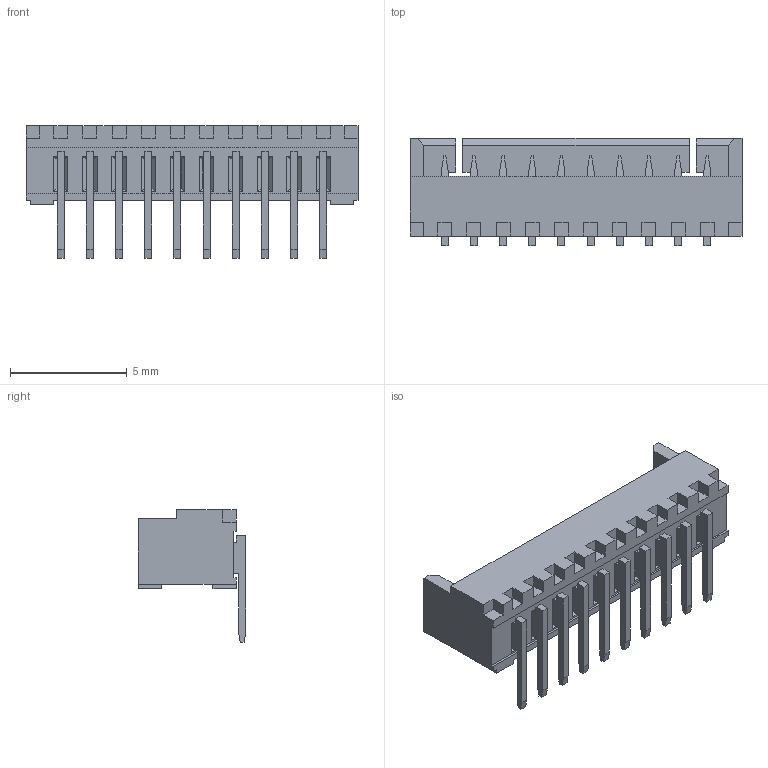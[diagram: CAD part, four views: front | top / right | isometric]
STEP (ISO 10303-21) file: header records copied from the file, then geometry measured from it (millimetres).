
FILE_DESCRIPTION((''),'2;1');
FILE_NAME('10-001','2010-02-09T',('snow'),(''),'PRO/ENGINEER BY PARAMETRIC TECHNOLOGY CORPORATION, 2007450','PRO/ENGINEER BY PARAMETRIC TECHNOLOGY CORPORATION, 2007450','');
FILE_SCHEMA(('CONFIG_CONTROL_DESIGN'));
Length unit declared in the file: millimetre
Products named in the file (1): 10-001
Bounding box: 14.23 x 4.6 x 5.7 mm (x, y, z)
Volume: 88.6 mm3; surface area: 452.3 mm2
Topology: 1 solids, 1 shells, 471 faces, 1459 edges, 950 vertices
Faces by surface type: plane 451, cylinder 20
Entity records: 16047 total; most frequent: ORIENTED_EDGE 2918, CARTESIAN_POINT 2880, DIRECTION 2441, EDGE_CURVE 1459, VECTOR 1419, LINE 1419, VERTEX_POINT 950, AXIS2_PLACEMENT_3D 511
